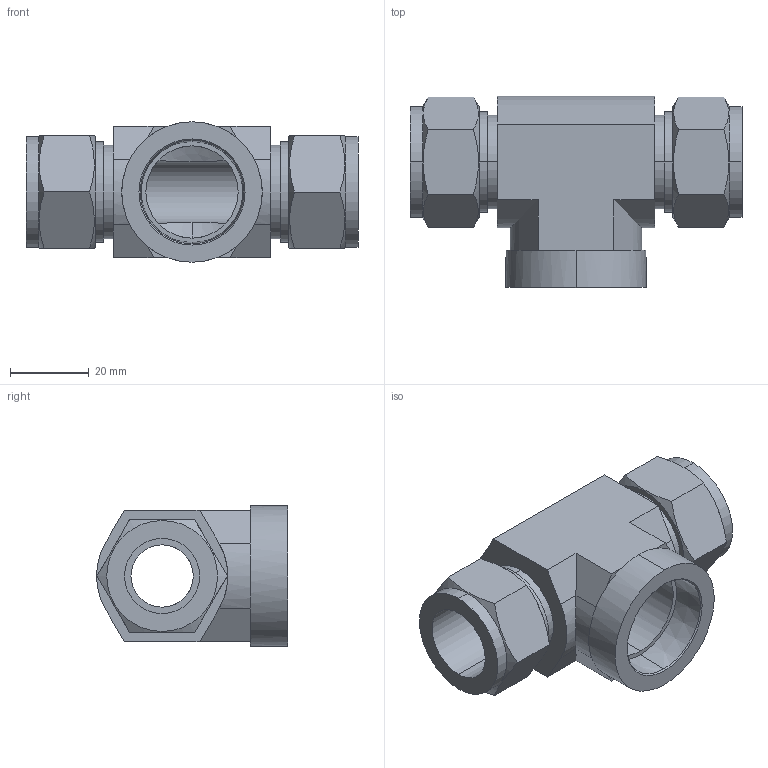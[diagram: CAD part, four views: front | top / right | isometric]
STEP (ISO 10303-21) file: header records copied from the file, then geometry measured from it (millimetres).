
FILE_DESCRIPTION (( 'STEP AP203' ), '1' );
FILE_NAME ('DTH12-12 SS.STEP', '2009-10-26T05:48:44', ( ' ' ), ( '' ), 'SwSTEP 2.0', 'SolidWorks 2008', '' );
FILE_SCHEMA (( 'CONFIG_CONTROL_DESIGN' ));
Length unit declared in the file: millimetre
Products named in the file (1): DTH12-12 SS
Bounding box: 84.2 x 48.45 x 35.6 mm (x, y, z)
Volume: 49049.9 mm3; surface area: 19144.9 mm2
Topology: 1 solids, 1 shells, 87 faces, 208 edges, 131 vertices
Faces by surface type: plane 44, cylinder 28, cone 15
Entity records: 2928 total; most frequent: CARTESIAN_POINT 842, ORIENTED_EDGE 416, DIRECTION 415, EDGE_CURVE 208, AXIS2_PLACEMENT_3D 158, VERTEX_POINT 131, EDGE_LOOP 99, VECTOR 99
